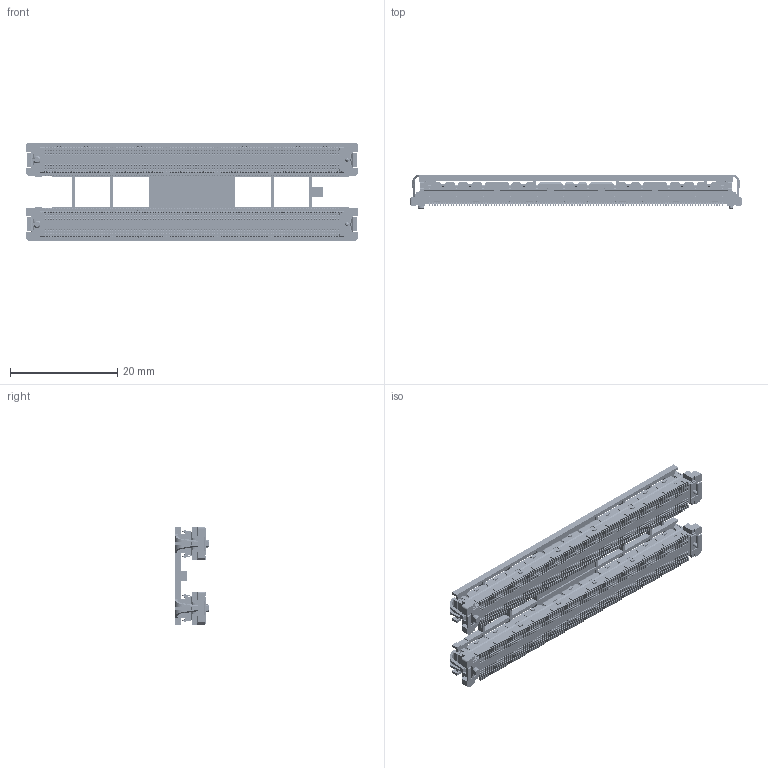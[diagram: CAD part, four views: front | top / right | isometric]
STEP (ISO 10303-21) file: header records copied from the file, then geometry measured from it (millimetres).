
FILE_DESCRIPTION (( 'STEP AP214' ), '1' );
FILE_NAME ('401-51501-5x_3D.STEP', '2018-03-26T09:31:28', ( '' ), ( '' ), 'SwSTEP 2.0', 'SolidWorks 2016', '' );
FILE_SCHEMA (( 'AUTOMOTIVE_DESIGN' ));
Length unit declared in the file: millimetre
Products named in the file (1): 401-51501-5x_3D
Bounding box: 61.8 x 6.45 x 18.4 mm (x, y, z)
Volume: 1827.6 mm3; surface area: 8224.5 mm2
Topology: 3 solids, 3 shells, 22943 faces, 67877 edges, 45160 vertices
Faces by surface type: plane 14648, cylinder 8258, bspline 27, cone 10
Entity records: 1018844 total; most frequent: CARTESIAN_POINT 140428, ORIENTED_EDGE 135754, DIRECTION 127979, EDGE_CURVE 67877, LINE 51125, VECTOR 51125, VERTEX_POINT 45160, AXIS2_PLACEMENT_3D 38427
